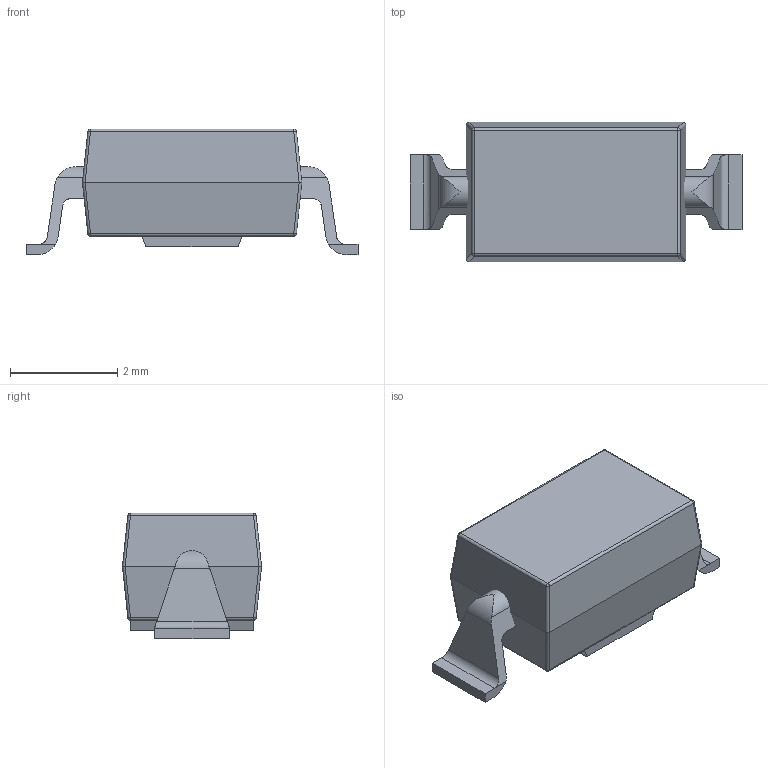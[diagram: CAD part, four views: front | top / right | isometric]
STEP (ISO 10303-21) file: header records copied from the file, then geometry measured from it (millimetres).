
FILE_DESCRIPTION(/* description */ ('Unknown'),/* implementation_level */ '2;1');
FILE_NAME(/* name */ 'SMAG',/* time_stamp */ '2023-10-04T10:43:22+08:00',/* author */ ('Unknown'),/* organization */ ('Unknown'),/* preprocessor_version */ 'ST-DEVELOPER v18.104',/* originating_system */ 'Solid Edge',/* authorisation */ 'Unknown');
FILE_SCHEMA (('AUTOMOTIVE_DESIGN {1 0 10303 214 3 1 1}'));
Length unit declared in the file: millimetre
Products named in the file (1): SMAG
Bounding box: 6.2 x 2.6 x 2.35 mm (x, y, z)
Volume: 23.2 mm3; surface area: 74.8 mm2
Topology: 3 solids, 3 shells, 67 faces, 157 edges, 88 vertices
Faces by surface type: plane 33, cylinder 26, sphere 8
Entity records: 1867 total; most frequent: DIRECTION 331, CARTESIAN_POINT 317, ORIENTED_EDGE 298, EDGE_CURVE 149, AXIS2_PLACEMENT_3D 118, LINE 95, VECTOR 95, VERTEX_POINT 88
